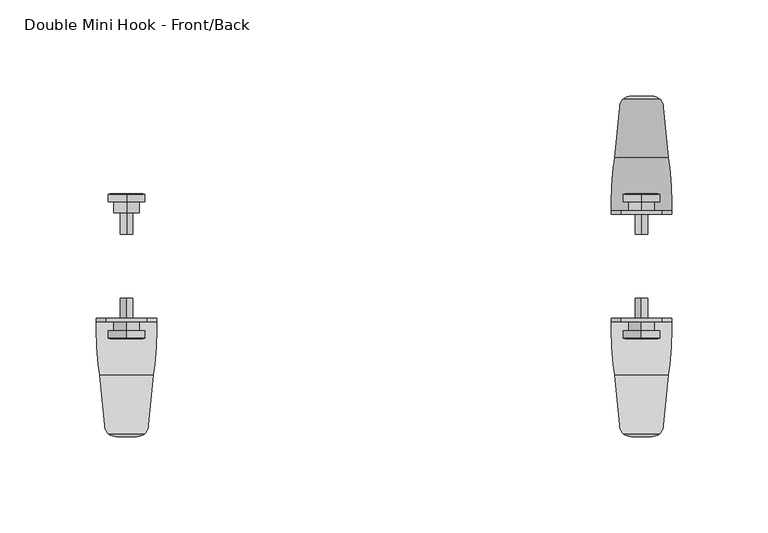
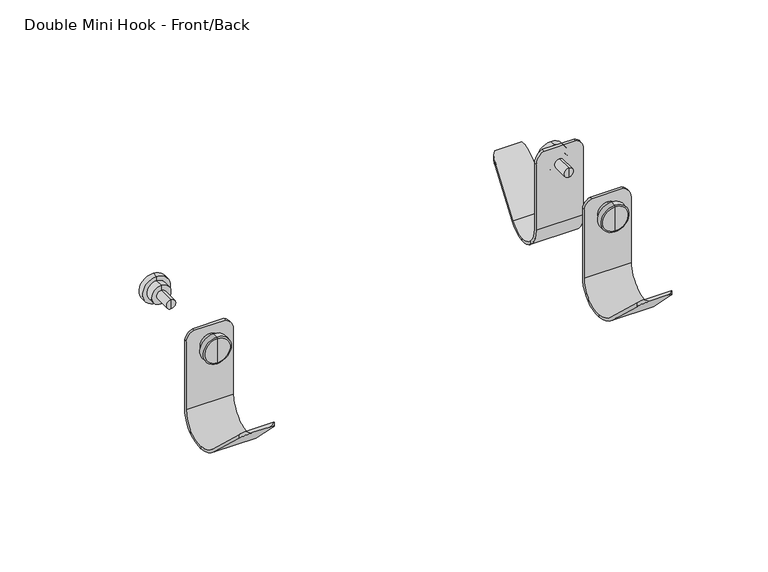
"""IFC4 building model written with IfcOpenShell, lengths in millimetres: furniture geometry, Steelcase Turnstone - Bivi - Accessories - Mini Hook : Double Mini Hook - Front/Back."""

from ifc_helpers import new_model, si_unit, frame, origin, place, context, project, spatial, polyline, circle_curve, ellipse_curve, source, transform, mapped, element, save
from ifc_brep_helpers import plane_surface, cylinder_surface, revolved_surface, advanced_brep


def double_mini_hook_front_back_0d0c3ba5(model_context):
    return source(origin(), model_context, "Body", "AdvancedBrep", [
        advanced_brep(
        [(604.2870131, -120.2757621, 1018.5729419), (604.2870131, -120.2757621, 1035.5323022), (604.2870131, -120.2757621, 1027.0526221), (604.2870131, -119.8984646, 1017.6150198), (604.2870131, -119.8984646, 1036.4902243), (604.2870131, -115.9614653, 1017.6150198), (604.2870131, -115.9614653, 1036.4902243), (604.2870131, -115.9614653, 1020.4385878), (604.2870131, -115.9614653, 1033.6666563), (604.2870131, -110.3692216, 1020.4385878), (604.2870131, -110.3692216, 1033.6666563), (604.2870131, -110.3692216, 1023.8073744), (604.2870131, -110.3692216, 1030.2978697), (604.2870131, -99.1020656, 1023.8073744), (604.2870131, -99.1020656, 1030.2978697), (604.2870131, -99.1020656, 1027.0526221)],
        [
            (0, 1, circle_curve(frame((604.2870131, -120.2757621, 1027.0526221), z_axis=(0.0, -1.0, 0.0), x_axis=(0.0, 0.0, 1.0)), 8.4796802)),
            (1, 2),
            (2, 0),
            (1, 0, circle_curve(frame((604.2870131, -120.2757621, 1027.0526221), z_axis=(0.0, -1.0, 0.0), x_axis=(0.0, 0.0, 1.0)), 8.4796802)),
            (3, 4, circle_curve(frame((604.2870131, -119.8984646, 1027.0526221), z_axis=(0.0, -1.0, 0.0), x_axis=(0.0, 0.0, 1.0)), 9.4376022)),
            (4, 1),
            (0, 3),
            (4, 3, circle_curve(frame((604.2870131, -119.8984646, 1027.0526221), z_axis=(0.0, -1.0, 0.0), x_axis=(0.0, 0.0, 1.0)), 9.4376022)),
            (5, 6, circle_curve(frame((604.2870131, -115.9614653, 1027.0526221), z_axis=(0.0, -1.0, 0.0), x_axis=(0.0, 0.0, 1.0)), 9.4376022)),
            (6, 4),
            (3, 5),
            (6, 5, circle_curve(frame((604.2870131, -115.9614653, 1027.0526221), z_axis=(0.0, -1.0, 0.0), x_axis=(0.0, 0.0, 1.0)), 9.4376022)),
            (7, 8, circle_curve(frame((604.2870131, -115.9614653, 1027.0526221), z_axis=(0.0, -1.0, 0.0), x_axis=(0.0, 0.0, 1.0)), 6.6140343)),
            (8, 6),
            (5, 7),
            (8, 7, circle_curve(frame((604.2870131, -115.9614653, 1027.0526221), z_axis=(0.0, -1.0, 0.0), x_axis=(0.0, 0.0, 1.0)), 6.6140343)),
            (9, 10, circle_curve(frame((604.2870131, -110.3692216, 1027.0526221), z_axis=(0.0, -1.0, 0.0), x_axis=(0.0, 0.0, 1.0)), 6.6140343)),
            (10, 8),
            (7, 9),
            (10, 9, circle_curve(frame((604.2870131, -110.3692216, 1027.0526221), z_axis=(0.0, -1.0, 0.0), x_axis=(0.0, 0.0, 1.0)), 6.6140343)),
            (11, 12, circle_curve(frame((604.2870131, -110.3692216, 1027.0526221), z_axis=(0.0, -1.0, 0.0), x_axis=(0.0, 0.0, 1.0)), 3.2452477)),
            (12, 10),
            (9, 11),
            (12, 11, circle_curve(frame((604.2870131, -110.3692216, 1027.0526221), z_axis=(0.0, -1.0, 0.0), x_axis=(0.0, 0.0, 1.0)), 3.2452477)),
            (13, 14, circle_curve(frame((604.2870131, -99.1020656, 1027.0526221), z_axis=(0.0, -1.0, 0.0), x_axis=(0.0, 0.0, 1.0)), 3.2452477)),
            (14, 12),
            (11, 13),
            (14, 13, circle_curve(frame((604.2870131, -99.1020656, 1027.0526221), z_axis=(0.0, -1.0, 0.0), x_axis=(0.0, 0.0, 1.0)), 3.2452477)),
            (15, 14),
            (13, 15),
        ],
        [
            plane_surface(frame((604.2870131, -120.2757621, 1027.0526221), z_axis=(0.0, -1.0, 0.0), x_axis=(0.0, 0.0, 1.0))),
            revolved_surface(polyline([(604.2870131, -120.2757621, 1035.5323022), (604.2870131, -119.8984646, 1036.4902243)]), (604.2870131, -116.6738789, 1027.0526221), (0.0, 1.0, 0.0)),
            cylinder_surface(frame((604.2870131, -116.6738789, 1027.0526221), z_axis=(0.0, 1.0, 0.0), x_axis=(0.0, 0.0, 1.0)), 9.4376022),
            plane_surface(frame((604.2870131, -115.9614653, 1027.0526221), z_axis=(0.0, 1.0, 0.0), x_axis=(0.0, 0.0, 1.0))),
            cylinder_surface(frame((604.2870131, -116.6738789, 1027.0526221), z_axis=(0.0, 1.0, 0.0), x_axis=(0.0, 0.0, 1.0)), 6.6140343),
            plane_surface(frame((604.2870131, -110.3692216, 1027.0526221), z_axis=(0.0, 1.0, 0.0), x_axis=(0.0, 0.0, 1.0))),
            cylinder_surface(frame((604.2870131, -116.6738789, 1027.0526221), z_axis=(0.0, 1.0, 0.0), x_axis=(0.0, 0.0, 1.0)), 3.2452477),
            plane_surface(frame((604.2870131, -99.1020656, 1027.0526221), z_axis=(0.0, 1.0, 0.0), x_axis=(0.0, 0.0, 1.0))),
        ],
        [
            (0, [[1, 2, 3]]),
            (0, [[4, -3, -2]]),
            (1, [[5, 6, -1, 7]]),
            (1, [[8, -7, -4, -6]]),
            (2, [[9, 10, -5, 11]]),
            (2, [[12, -11, -8, -10]]),
            (3, [[13, 14, -9, 15]]),
            (3, [[16, -15, -12, -14]]),
            (4, [[17, 18, -13, 19]]),
            (4, [[20, -19, -16, -18]]),
            (5, [[21, 22, -17, 23]]),
            (5, [[24, -23, -20, -22]]),
            (6, [[25, 26, -21, 27]]),
            (6, [[28, -27, -24, -26]]),
            (7, [[29, -25, 30]]),
            (7, [[-30, -28, -29]]),
        ],
    ),
        advanced_brep(
        [(588.412011, -111.3895045, 985.0156196), (588.412011, -111.3895045, 1031.8857507), (588.412011, -111.3895045, 1033.6357817), (588.412011, -109.4844564, 1033.6357817), (588.412011, -109.4844564, 1031.8857507), (588.412011, -109.4844564, 985.0156196), (588.412011, -115.9875666, 971.1769593), (588.412011, -115.9875666, 973.6348117), (620.1620178, -109.4844564, 985.0156196), (620.1620178, -109.4844564, 1031.8857305), (620.1620178, -111.3895045, 1031.8857305), (620.1620178, -111.3895045, 985.0156196), (620.1620178, -115.9875175, 973.6348625), (620.1620178, -115.9875175, 971.1770008), (619.5669637, -127.3418275, 966.8432061), (618.1739692, -140.5952849, 971.9889373), (590.4000571, -140.5952849, 971.9889373), (589.0070625, -127.3418275, 966.8432061), (615.5844292, -165.2331117, 995.7814101), (609.7199436, -171.0975973, 1001.444678), (598.8540827, -171.0975973, 1001.444678), (592.989597, -165.2331117, 995.7814101), (613.451349, -169.757358, 1002.7849173), (595.1226772, -169.757358, 1002.7849173), (615.5844292, -165.2331117, 998.4159034), (618.312333, -139.2788407, 973.3521552), (590.2616932, -139.2788407, 973.3521552), (592.989597, -165.2331117, 998.4159034), (589.0070625, -127.3418275, 968.6377665), (619.5669637, -127.3418275, 968.6377665), (614.8404561, -111.3895045, 1039.7467841), (593.7460056, -111.3895045, 1039.7526221), (614.8280108, -109.4844564, 1039.7526221), (593.7460056, -109.4844564, 1039.7526221)],
        [
            (0, 1),
            (1, 2),
            (2, 3),
            (3, 4),
            (4, 5),
            (5, 6, circle_curve(frame((588.412011, -127.8422681, 985.1950728), z_axis=(-1.0, 0.0, 0.0), x_axis=(0.0, -1.0, 0.0)), 18.3586888)),
            (6, 7),
            (7, 0, circle_curve(frame((588.412011, -127.7730331, 985.0156196), z_axis=(1.0, 0.0, 0.0), x_axis=(0.0, -1.0, 0.0)), 16.3835286)),
            (8, 9),
            (9, 10),
            (10, 11),
            (11, 12, circle_curve(frame((620.1620178, -127.7730331, 985.0156196), z_axis=(-1.0, 0.0, 0.0), x_axis=(0.0, -1.0, 0.0)), 16.3835286)),
            (12, 13),
            (13, 8, circle_curve(frame((620.1620178, -127.8422681, 985.1950728), z_axis=(1.0, 0.0, 0.0), x_axis=(0.0, -1.0, 0.0)), 18.3586888)),
            (5, 8),
            (13, 14, ellipse_curve(frame((619.5407367, -127.8422681, 985.1950728), z_axis=(-0.9986295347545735, 0.052335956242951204, 0.0), x_axis=(-0.05233595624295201, -0.9986295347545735, 0.0)), 18.3838833, 18.3586888)),
            (14, 15, ellipse_curve(frame((619.5143652, -127.8422681, 985.1950728), z_axis=(-0.9945218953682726, 0.10452846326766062, 0.0), x_axis=(-0.1045284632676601, -0.9945218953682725, 0.0)), 18.4598136, 18.3586888)),
            (15, 16),
            (16, 17, ellipse_curve(frame((589.059661, -127.8422681, 985.1950728), z_axis=(0.9945218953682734, 0.10452846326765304, 0.0), x_axis=(-0.10452846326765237, 0.9945218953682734, 0.0)), 18.4598136, 18.3586888)),
            (17, 6, ellipse_curve(frame((589.0332895, -127.8422681, 985.1950728), z_axis=(0.998629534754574, 0.05233595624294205, 0.0), x_axis=(-0.052335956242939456, 0.998629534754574, 0.0)), 18.3838833, 18.3586888)),
            (15, 18),
            (18, 19, ellipse_curve(frame((609.7199436, -165.2331117, 995.7814101), z_axis=(0.0, -0.6946583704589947, -0.7193398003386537), x_axis=(0.0, 0.7193398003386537, -0.6946583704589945)), 8.1525944, 5.8644857)),
            (19, 20),
            (20, 21, ellipse_curve(frame((598.8540827, -165.2331117, 995.7814101), z_axis=(0.0, -0.6946583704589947, -0.7193398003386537), x_axis=(0.0, 0.7193398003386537, -0.6946583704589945)), 8.1525944, 5.8644857)),
            (21, 16),
            (19, 22, ellipse_curve(frame((609.7199436, -165.2331117, 1007.3091637), z_axis=(0.0, -0.7071067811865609, 0.7071067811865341), x_axis=(0.0, -0.7071067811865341, -0.7071067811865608)), 8.2936352, 5.8644857)),
            (22, 23),
            (23, 20, ellipse_curve(frame((598.8540827, -165.2331117, 1007.3091637), z_axis=(0.0, -0.7071067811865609, 0.7071067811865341), x_axis=(0.0, -0.7071067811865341, -0.7071067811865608)), 8.2936352, 5.8644857)),
            (22, 24, ellipse_curve(frame((609.7199436, -165.2331117, 998.4159034), z_axis=(0.0, 0.6946583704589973, 0.7193398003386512), x_axis=(0.0, 0.7193398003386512, -0.6946583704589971)), 8.1525944, 5.8644857)),
            (24, 25),
            (25, 26),
            (26, 27),
            (27, 23, ellipse_curve(frame((598.8540827, -165.2331117, 998.4159034), z_axis=(0.0, 0.6946583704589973, 0.7193398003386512), x_axis=(0.0, 0.7193398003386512, -0.6946583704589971)), 8.1525944, 5.8644857)),
            (11, 0),
            (7, 28, ellipse_curve(frame((589.0296611, -127.7730331, 985.0156196), z_axis=(-0.998629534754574, -0.05233595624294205, 0.0), x_axis=(0.052335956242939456, -0.998629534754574, 0.0)), 16.4060125, 16.3835286)),
            (28, 26, ellipse_curve(frame((589.0523841, -127.7730331, 985.0156196), z_axis=(-0.9945218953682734, -0.10452846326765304, 0.0), x_axis=(0.10452846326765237, -0.9945218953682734, 0.0)), 16.4737737, 16.3835286)),
            (25, 29, ellipse_curve(frame((619.5216421, -127.7730331, 985.0156196), z_axis=(0.9945218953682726, -0.10452846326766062, 0.0), x_axis=(0.1045284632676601, 0.9945218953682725, 0.0)), 16.4737737, 16.3835286)),
            (29, 12, ellipse_curve(frame((619.5443651, -127.7730331, 985.0156196), z_axis=(0.9986295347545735, -0.052335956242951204, 0.0), x_axis=(0.05233595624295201, 0.9986295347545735, 0.0)), 16.4060125, 16.3835286)),
            (10, 30, circle_curve(frame((610.8894917, -111.3895045, 1031.3404182), z_axis=(0.0, -1.0, 0.0), x_axis=(-1.0, 0.0, 0.0)), 9.288547)),
            (30, 31),
            (31, 2, circle_curve(frame((595.5897362, -111.3895045, 1032.7607662), z_axis=(0.0, -1.0, 0.0), x_axis=(-1.0, 0.0, 0.0)), 7.2308638)),
            (30, 32),
            (32, 33),
            (33, 31),
            (3, 33, circle_curve(frame((595.5897362, -109.4844564, 1032.7607662), z_axis=(0.0, 1.0, 0.0), x_axis=(-1.0, 0.0, 0.0)), 7.2308638)),
            (32, 9, circle_curve(frame((610.8894917, -109.4844564, 1031.3404182), z_axis=(0.0, 1.0, 0.0), x_axis=(-1.0, 0.0, 0.0)), 9.288547)),
            (14, 29),
            (24, 18),
            (17, 28),
            (27, 21),
        ],
        [
            plane_surface(frame((588.412011, -146.2009569, 985.1950728), z_axis=(-1.0, 0.0, 0.0), x_axis=(0.0, 0.0, 1.0))),
            plane_surface(frame((620.1620178, -146.2009569, 985.1950728), z_axis=(1.0, 0.0, 0.0), x_axis=(0.0, 0.0, -1.0))),
            cylinder_surface(frame((620.1620178, -127.8422681, 985.1950728), z_axis=(-1.0, 0.0, 0.0), x_axis=(0.0, -1.0, 0.0)), 18.3586888),
            plane_surface(frame((588.412011, -140.5952849, 971.9889373), z_axis=(0.0, -0.6946583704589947, -0.7193398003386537), x_axis=(1.0, 0.0, 0.0))),
            plane_surface(frame((588.412011, -171.0975973, 1001.444678), z_axis=(0.0, -0.7071067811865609, 0.7071067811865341), x_axis=(1.0, 0.0, 0.0))),
            plane_surface(frame((588.412011, -169.757358, 1002.7849173), z_axis=(0.0, 0.6946583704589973, 0.7193398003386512), x_axis=(1.0, 0.0, 0.0))),
            revolved_surface(polyline([(621.2436203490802, -144.1565617, 985.0156196), (587.33040585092, -144.1565617, 985.0156196)]), (620.1620178, -127.7730331, 985.0156196), (1.0, 0.0, 0.0)),
            plane_surface(frame((588.412011, -111.3895045, 985.0156196), z_axis=(0.0, -1.0, 0.0), x_axis=(1.0, 0.0, 0.0))),
            plane_surface(frame((588.412011, -111.3895045, 1039.7526221), z_axis=(0.0, 0.0, 1.0), x_axis=(1.0, 0.0, 0.0))),
            plane_surface(frame((588.412011, -109.4844564, 1039.7526221), z_axis=(0.0, 1.0, 0.0), x_axis=(1.0, 0.0, 0.0))),
            cylinder_surface(frame((610.8894917, -76.958841, 1031.3404182), z_axis=(0.0, 1.0, 0.0), x_axis=(-1.0, 0.0, 0.0)), 9.288547),
            cylinder_surface(frame((595.5897362, -131.6332564, 1032.7607662), z_axis=(0.0, 1.0, 0.0), x_axis=(-1.0, 0.0, 0.0)), 7.2308638),
            plane_surface(frame((619.5669637, -127.3418275, 1017.6150198), z_axis=(0.9945218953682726, -0.10452846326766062, 0.0), x_axis=(0.0, 0.0, -1.0))),
            cylinder_surface(frame((609.7199436, -165.2331117, 316.2188303), z_axis=(0.0, 0.0, -1.0), x_axis=(0.0, -1.0, 0.0)), 5.8644857),
            plane_surface(frame((620.1620178, -115.9875175, 1017.6150198), z_axis=(0.9986295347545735, -0.052335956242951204, 0.0), x_axis=(0.0, 0.0, -1.0))),
            plane_surface(frame((589.0070625, -127.3418275, 1017.6150198), z_axis=(-0.998629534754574, -0.05233595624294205, 0.0), x_axis=(0.0, 0.0, -1.0))),
            cylinder_surface(frame((598.8540827, -165.2331117, 316.2188303), z_axis=(0.0, 0.0, -1.0), x_axis=(0.0, -1.0, 0.0)), 5.8644857),
            plane_surface(frame((592.989597, -165.2331117, 1017.6150198), z_axis=(-0.9945218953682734, -0.10452846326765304, 0.0), x_axis=(0.0, 0.0, -1.0))),
        ],
        [
            (0, [[1, 2, 3, 4, 5, 6, 7, 8]]),
            (1, [[9, 10, 11, 12, 13, 14]]),
            (2, [[15, -14, 16, 17, 18, 19, 20, -6]]),
            (3, [[-18, 21, 22, 23, 24, 25]]),
            (4, [[-23, 26, 27, 28]]),
            (5, [[-27, 29, 30, 31, 32, 33]]),
            (6, [[34, -8, 35, 36, -31, 37, 38, -12]]),
            (7, [[-34, -11, 39, 40, 41, -2, -1]]),
            (8, [[-40, 42, 43, 44]]),
            (9, [[-15, -5, -4, 45, -43, 46, -9]]),
            (10, [[-10, -46, -42, -39]]),
            (11, [[-3, -41, -44, -45]]),
            (12, [[47, -37, -30, 48, -21, -17]]),
            (13, [[-48, -29, -26, -22]]),
            (14, [[-47, -16, -13, -38]]),
            (15, [[49, -35, -7, -20]]),
            (16, [[50, -24, -28, -33]]),
            (17, [[-49, -19, -25, -50, -32, -36]]),
        ],
    ),
        advanced_brep(
        [(872.4689869, -120.2757621, 1018.5729419), (872.4689869, -120.2757621, 1035.5323022), (872.4689869, -120.2757621, 1027.0526221), (872.4689869, -119.8984646, 1017.6150198), (872.4689869, -119.8984646, 1036.4902243), (872.4689869, -115.9614653, 1017.6150198), (872.4689869, -115.9614653, 1036.4902243), (872.4689869, -115.9614653, 1020.4385878), (872.4689869, -115.9614653, 1033.6666563), (872.4689869, -110.3692216, 1020.4385878), (872.4689869, -110.3692216, 1033.6666563), (872.4689869, -110.3692216, 1023.8073744), (872.4689869, -110.3692216, 1030.2978697), (872.4689869, -99.1020656, 1023.8073744), (872.4689869, -99.1020656, 1030.2978697), (872.4689869, -99.1020656, 1027.0526221)],
        [
            (0, 1, circle_curve(frame((872.4689869, -120.2757621, 1027.0526221), z_axis=(0.0, -1.0, 0.0), x_axis=(0.0, 0.0, 1.0)), 8.4796802)),
            (1, 2),
            (2, 0),
            (1, 0, circle_curve(frame((872.4689869, -120.2757621, 1027.0526221), z_axis=(0.0, -1.0, 0.0), x_axis=(0.0, 0.0, 1.0)), 8.4796802)),
            (3, 4, circle_curve(frame((872.4689869, -119.8984646, 1027.0526221), z_axis=(0.0, -1.0, 0.0), x_axis=(0.0, 0.0, 1.0)), 9.4376022)),
            (4, 1),
            (0, 3),
            (4, 3, circle_curve(frame((872.4689869, -119.8984646, 1027.0526221), z_axis=(0.0, -1.0, 0.0), x_axis=(0.0, 0.0, 1.0)), 9.4376022)),
            (5, 6, circle_curve(frame((872.4689869, -115.9614653, 1027.0526221), z_axis=(0.0, -1.0, 0.0), x_axis=(0.0, 0.0, 1.0)), 9.4376022)),
            (6, 4),
            (3, 5),
            (6, 5, circle_curve(frame((872.4689869, -115.9614653, 1027.0526221), z_axis=(0.0, -1.0, 0.0), x_axis=(0.0, 0.0, 1.0)), 9.4376022)),
            (7, 8, circle_curve(frame((872.4689869, -115.9614653, 1027.0526221), z_axis=(0.0, -1.0, 0.0), x_axis=(0.0, 0.0, 1.0)), 6.6140343)),
            (8, 6),
            (5, 7),
            (8, 7, circle_curve(frame((872.4689869, -115.9614653, 1027.0526221), z_axis=(0.0, -1.0, 0.0), x_axis=(0.0, 0.0, 1.0)), 6.6140343)),
            (9, 10, circle_curve(frame((872.4689869, -110.3692216, 1027.0526221), z_axis=(0.0, -1.0, 0.0), x_axis=(0.0, 0.0, 1.0)), 6.6140343)),
            (10, 8),
            (7, 9),
            (10, 9, circle_curve(frame((872.4689869, -110.3692216, 1027.0526221), z_axis=(0.0, -1.0, 0.0), x_axis=(0.0, 0.0, 1.0)), 6.6140343)),
            (11, 12, circle_curve(frame((872.4689869, -110.3692216, 1027.0526221), z_axis=(0.0, -1.0, 0.0), x_axis=(0.0, 0.0, 1.0)), 3.2452477)),
            (12, 10),
            (9, 11),
            (12, 11, circle_curve(frame((872.4689869, -110.3692216, 1027.0526221), z_axis=(0.0, -1.0, 0.0), x_axis=(0.0, 0.0, 1.0)), 3.2452477)),
            (13, 14, circle_curve(frame((872.4689869, -99.1020656, 1027.0526221), z_axis=(0.0, -1.0, 0.0), x_axis=(0.0, 0.0, 1.0)), 3.2452477)),
            (14, 12),
            (11, 13),
            (14, 13, circle_curve(frame((872.4689869, -99.1020656, 1027.0526221), z_axis=(0.0, -1.0, 0.0), x_axis=(0.0, 0.0, 1.0)), 3.2452477)),
            (15, 14),
            (13, 15),
        ],
        [
            plane_surface(frame((872.4689869, -120.2757621, 1027.0526221), z_axis=(0.0, -1.0, 0.0), x_axis=(0.0, 0.0, 1.0))),
            revolved_surface(polyline([(872.4689869, -120.2757621, 1035.5323022), (872.4689869, -119.8984646, 1036.4902243)]), (872.4689869, -116.6738789, 1027.0526221), (0.0, 1.0000000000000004, 0.0)),
            cylinder_surface(frame((872.4689869, -116.6738789, 1027.0526221), z_axis=(0.0, 1.0000000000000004, 0.0), x_axis=(0.0, 0.0, 1.0)), 9.4376022),
            plane_surface(frame((872.4689869, -115.9614653, 1027.0526221), z_axis=(0.0, 1.0, 0.0), x_axis=(0.0, 0.0, 1.0))),
            cylinder_surface(frame((872.4689869, -116.6738789, 1027.0526221), z_axis=(0.0, 1.0000000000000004, 0.0), x_axis=(0.0, 0.0, 1.0)), 6.6140343),
            plane_surface(frame((872.4689869, -110.3692216, 1027.0526221), z_axis=(0.0, 1.0, 0.0), x_axis=(0.0, 0.0, 1.0))),
            cylinder_surface(frame((872.4689869, -116.6738789, 1027.0526221), z_axis=(0.0, 1.0000000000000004, 0.0), x_axis=(0.0, 0.0, 1.0)), 3.2452477),
            plane_surface(frame((872.4689869, -99.1020656, 1027.0526221), z_axis=(0.0, 1.0, 0.0), x_axis=(0.0, 0.0, 1.0))),
        ],
        [
            (0, [[1, 2, 3]]),
            (0, [[4, -3, -2]]),
            (1, [[5, 6, -1, 7]]),
            (1, [[8, -7, -4, -6]]),
            (2, [[9, 10, -5, 11]]),
            (2, [[12, -11, -8, -10]]),
            (3, [[13, 14, -9, 15]]),
            (3, [[16, -15, -12, -14]]),
            (4, [[17, 18, -13, 19]]),
            (4, [[20, -19, -16, -18]]),
            (5, [[21, 22, -17, 23]]),
            (5, [[24, -23, -20, -22]]),
            (6, [[25, 26, -21, 27]]),
            (6, [[28, -27, -24, -26]]),
            (7, [[29, -25, 30]]),
            (7, [[-30, -28, -29]]),
        ],
    ),
        advanced_brep(
        [(856.5939847, -111.3895045, 985.0156196), (856.5939847, -111.3895045, 1031.8857507), (856.5939847, -111.3895045, 1033.6357817), (856.5939847, -109.4844564, 1033.6357817), (856.5939847, -109.4844564, 1031.8857507), (856.5939847, -109.4844564, 985.0156196), (856.5939847, -115.9875666, 971.1769593), (856.5939847, -115.9875666, 973.6348117), (888.3439916, -109.4844564, 985.0156196), (888.3439916, -109.4844564, 1031.8857305), (888.3439916, -111.3895045, 1031.8857305), (888.3439916, -111.3895045, 985.0156196), (888.3439916, -115.9875175, 973.6348625), (888.3439916, -115.9875175, 971.1770008), (887.7489375, -127.3418275, 966.8432061), (886.3559429, -140.5952849, 971.9889373), (858.5820308, -140.5952849, 971.9889373), (857.1890363, -127.3418275, 966.8432061), (883.766403, -165.2331117, 995.7814101), (877.9019173, -171.0975973, 1001.444678), (867.0360564, -171.0975973, 1001.444678), (861.1715708, -165.2331117, 995.7814101), (881.6333228, -169.757358, 1002.7849173), (863.304651, -169.757358, 1002.7849173), (883.766403, -165.2331117, 998.4159034), (886.4943068, -139.2788407, 973.3521552), (858.443667, -139.2788407, 973.3521552), (861.1715708, -165.2331117, 998.4159034), (857.1890363, -127.3418275, 968.6377665), (887.7489375, -127.3418275, 968.6377665), (883.0224298, -111.3895045, 1039.7467841), (861.9279793, -111.3895045, 1039.7526221), (883.0099846, -109.4844564, 1039.7526221), (861.9279793, -109.4844564, 1039.7526221)],
        [
            (0, 1),
            (1, 2),
            (2, 3),
            (3, 4),
            (4, 5),
            (5, 6, circle_curve(frame((856.5939847, -127.8422681, 985.1950728), z_axis=(-1.0, 0.0, 0.0), x_axis=(0.0, -1.0000000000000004, 0.0)), 18.3586888)),
            (6, 7),
            (7, 0, circle_curve(frame((856.5939847, -127.7730331, 985.0156196), z_axis=(1.0, 0.0, 0.0), x_axis=(0.0, -1.0000000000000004, 0.0)), 16.3835286)),
            (8, 9),
            (9, 10),
            (10, 11),
            (11, 12, circle_curve(frame((888.3439916, -127.7730331, 985.0156196), z_axis=(-1.0, 0.0, 0.0), x_axis=(0.0, -1.0000000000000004, 0.0)), 16.3835286)),
            (12, 13),
            (13, 8, circle_curve(frame((888.3439916, -127.8422681, 985.1950728), z_axis=(1.0, 0.0, 0.0), x_axis=(0.0, -1.0000000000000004, 0.0)), 18.3586888)),
            (5, 8),
            (13, 14, ellipse_curve(frame((887.7227105, -127.8422681, 985.1950728), z_axis=(-0.9986295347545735, 0.052335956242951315, 0.0), x_axis=(-0.05233595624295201, -0.9986295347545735, 0.0)), 18.3838833, 18.3586888)),
            (14, 15, ellipse_curve(frame((887.696339, -127.8422681, 985.1950728), z_axis=(-0.9945218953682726, 0.10452846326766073, 0.0), x_axis=(-0.1045284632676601, -0.9945218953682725, 0.0)), 18.4598136, 18.3586888)),
            (15, 16),
            (16, 17, ellipse_curve(frame((857.2416348, -127.8422681, 985.1950728), z_axis=(0.9945218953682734, 0.10452846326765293, 0.0), x_axis=(-0.10452846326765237, 0.9945218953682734, 0.0)), 18.4598136, 18.3586888)),
            (17, 6, ellipse_curve(frame((857.2152633, -127.8422681, 985.1950728), z_axis=(0.998629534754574, 0.05233595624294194, 0.0), x_axis=(-0.052335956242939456, 0.998629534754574, 0.0)), 18.3838833, 18.3586888)),
            (15, 18),
            (18, 19, ellipse_curve(frame((877.9019173, -165.2331117, 995.7814101), z_axis=(0.0, -0.6946583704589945, -0.7193398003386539), x_axis=(0.0, 0.7193398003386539, -0.6946583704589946)), 8.1525944, 5.8644857)),
            (19, 20),
            (20, 21, ellipse_curve(frame((867.0360564, -165.2331117, 995.7814101), z_axis=(0.0, -0.6946583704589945, -0.7193398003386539), x_axis=(0.0, 0.7193398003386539, -0.6946583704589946)), 8.1525944, 5.8644857)),
            (21, 16),
            (19, 22, ellipse_curve(frame((877.9019173, -165.2331117, 1007.3091637), z_axis=(0.0, -0.7071067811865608, 0.7071067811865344), x_axis=(0.0, -0.7071067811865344, -0.7071067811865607)), 8.2936352, 5.8644857)),
            (22, 23),
            (23, 20, ellipse_curve(frame((867.0360564, -165.2331117, 1007.3091637), z_axis=(0.0, -0.7071067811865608, 0.7071067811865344), x_axis=(0.0, -0.7071067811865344, -0.7071067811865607)), 8.2936352, 5.8644857)),
            (22, 24, ellipse_curve(frame((877.9019173, -165.2331117, 998.4159034), z_axis=(0.0, 0.6946583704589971, 0.7193398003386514), x_axis=(0.0, 0.7193398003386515, -0.6946583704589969)), 8.1525944, 5.8644857)),
            (24, 25),
            (25, 26),
            (26, 27),
            (27, 23, ellipse_curve(frame((867.0360564, -165.2331117, 998.4159034), z_axis=(0.0, 0.6946583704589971, 0.7193398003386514), x_axis=(0.0, 0.7193398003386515, -0.6946583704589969)), 8.1525944, 5.8644857)),
            (11, 0),
            (7, 28, ellipse_curve(frame((857.2116349, -127.7730331, 985.0156196), z_axis=(-0.998629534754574, -0.05233595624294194, 0.0), x_axis=(0.052335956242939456, -0.998629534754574, 0.0)), 16.4060125, 16.3835286)),
            (28, 26, ellipse_curve(frame((857.2343579, -127.7730331, 985.0156196), z_axis=(-0.9945218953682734, -0.10452846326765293, 0.0), x_axis=(0.10452846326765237, -0.9945218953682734, 0.0)), 16.4737737, 16.3835286)),
            (25, 29, ellipse_curve(frame((887.7036159, -127.7730331, 985.0156196), z_axis=(0.9945218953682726, -0.10452846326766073, 0.0), x_axis=(0.1045284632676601, 0.9945218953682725, 0.0)), 16.4737737, 16.3835286)),
            (29, 12, ellipse_curve(frame((887.7263389, -127.7730331, 985.0156196), z_axis=(0.9986295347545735, -0.052335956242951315, 0.0), x_axis=(0.05233595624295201, 0.9986295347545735, 0.0)), 16.4060125, 16.3835286)),
            (10, 30, circle_curve(frame((879.0714655, -111.3895045, 1031.3404182), z_axis=(0.0, -1.0, 0.0), x_axis=(-1.0000000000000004, 0.0, 0.0)), 9.288547)),
            (30, 31),
            (31, 2, circle_curve(frame((863.77171, -111.3895045, 1032.7607662), z_axis=(0.0, -1.0, 0.0), x_axis=(-1.0000000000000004, 0.0, 0.0)), 7.2308638)),
            (30, 32),
            (32, 33),
            (33, 31),
            (3, 33, circle_curve(frame((863.77171, -109.4844564, 1032.7607662), z_axis=(0.0, 1.0, 0.0), x_axis=(-1.0000000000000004, 0.0, 0.0)), 7.2308638)),
            (32, 9, circle_curve(frame((879.0714655, -109.4844564, 1031.3404182), z_axis=(0.0, 1.0, 0.0), x_axis=(-1.0000000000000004, 0.0, 0.0)), 9.288547)),
            (14, 29),
            (24, 18),
            (17, 28),
            (27, 21),
        ],
        [
            plane_surface(frame((856.5939847, -146.2009569, 985.1950728), z_axis=(-1.0, 0.0, 0.0), x_axis=(0.0, 0.0, 1.0))),
            plane_surface(frame((888.3439916, -146.2009569, 985.1950728), z_axis=(1.0, 0.0, 0.0), x_axis=(0.0, 0.0, -1.0))),
            cylinder_surface(frame((888.3439916, -127.8422681, 985.1950728), z_axis=(-1.0000000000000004, 0.0, 0.0), x_axis=(0.0, -1.0000000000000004, 0.0)), 18.3586888),
            plane_surface(frame((856.5939847, -140.5952849, 971.9889373), z_axis=(0.0, -0.6946583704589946, -0.719339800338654), x_axis=(1.0, 0.0, 0.0))),
            plane_surface(frame((856.5939847, -171.0975973, 1001.444678), z_axis=(0.0, -0.7071067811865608, 0.7071067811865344), x_axis=(1.0, 0.0, 0.0))),
            plane_surface(frame((856.5939847, -169.757358, 1002.7849173), z_axis=(0.0, 0.6946583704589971, 0.7193398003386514), x_axis=(1.0, 0.0, 0.0))),
            revolved_surface(polyline([(889.4255941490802, -144.15656170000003, 985.0156196), (855.5123796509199, -144.15656170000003, 985.0156196)]), (888.3439916, -127.7730331, 985.0156196), (1.0000000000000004, 0.0, 0.0)),
            plane_surface(frame((856.5939847, -111.3895045, 985.0156196), z_axis=(0.0, -1.0, 0.0), x_axis=(1.0, 0.0, 0.0))),
            plane_surface(frame((856.5939847, -111.3895045, 1039.7526221), z_axis=(0.0, 0.0, 1.0), x_axis=(1.0, 0.0, 0.0))),
            plane_surface(frame((856.5939847, -109.4844564, 1039.7526221), z_axis=(0.0, 1.0, 0.0), x_axis=(1.0, 0.0, 0.0))),
            cylinder_surface(frame((879.0714655, -76.958841, 1031.3404182), z_axis=(0.0, 1.0000000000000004, 0.0), x_axis=(-1.0000000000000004, 0.0, 0.0)), 9.288547),
            cylinder_surface(frame((863.77171, -131.6332564, 1032.7607662), z_axis=(0.0, 1.0000000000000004, 0.0), x_axis=(-1.0000000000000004, 0.0, 0.0)), 7.2308638),
            plane_surface(frame((887.7489375, -127.3418275, 1017.6150198), z_axis=(0.9945218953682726, -0.10452846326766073, 0.0), x_axis=(0.0, 0.0, -1.0))),
            cylinder_surface(frame((877.9019173, -165.2331117, 316.2188303), z_axis=(0.0, 0.0, -1.0), x_axis=(0.0, -1.0000000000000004, 0.0)), 5.8644857),
            plane_surface(frame((888.3439916, -115.9875175, 1017.6150198), z_axis=(0.9986295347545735, -0.052335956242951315, 0.0), x_axis=(0.0, 0.0, -1.0))),
            plane_surface(frame((857.1890363, -127.3418275, 1017.6150198), z_axis=(-0.998629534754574, -0.05233595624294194, 0.0), x_axis=(0.0, 0.0, -1.0))),
            cylinder_surface(frame((867.0360564, -165.2331117, 316.2188303), z_axis=(0.0, 0.0, -1.0), x_axis=(0.0, -1.0000000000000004, 0.0)), 5.8644857),
            plane_surface(frame((861.1715708, -165.2331117, 1017.6150198), z_axis=(-0.9945218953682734, -0.10452846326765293, 0.0), x_axis=(0.0, 0.0, -1.0))),
        ],
        [
            (0, [[1, 2, 3, 4, 5, 6, 7, 8]]),
            (1, [[9, 10, 11, 12, 13, 14]]),
            (2, [[15, -14, 16, 17, 18, 19, 20, -6]]),
            (3, [[-18, 21, 22, 23, 24, 25]]),
            (4, [[-23, 26, 27, 28]]),
            (5, [[-27, 29, 30, 31, 32, 33]]),
            (6, [[34, -8, 35, 36, -31, 37, 38, -12]]),
            (7, [[-34, -11, 39, 40, 41, -2, -1]]),
            (8, [[-40, 42, 43, 44]]),
            (9, [[-15, -5, -4, 45, -43, 46, -9]]),
            (10, [[-10, -46, -42, -39]]),
            (11, [[-3, -41, -44, -45]]),
            (12, [[47, -37, -30, 48, -21, -17]]),
            (13, [[-48, -29, -26, -22]]),
            (14, [[-47, -16, -13, -38]]),
            (15, [[49, -35, -7, -20]]),
            (16, [[50, -24, -28, -33]]),
            (17, [[-49, -19, -25, -50, -32, -36]]),
        ],
    ),
        advanced_brep(
        [(872.4689869, -44.5801745, 1018.5729419), (872.4689869, -44.5801745, 1035.5323022), (872.4689869, -44.5801745, 1027.0526221), (872.4689869, -44.9574721, 1017.6150198), (872.4689869, -44.9574721, 1036.4902243), (872.4689869, -48.8944713, 1017.6150198), (872.4689869, -48.8944713, 1036.4902243), (872.4689869, -48.8944713, 1020.4385878), (872.4689869, -48.8944713, 1033.6666563), (872.4689869, -54.486715, 1020.4385878), (872.4689869, -54.486715, 1033.6666563), (872.4689869, -54.486715, 1023.8073744), (872.4689869, -54.486715, 1030.2978697), (872.4689869, -65.753871, 1023.8073744), (872.4689869, -65.753871, 1030.2978697), (872.4689869, -65.753871, 1027.0526221)],
        [
            (0, 1, circle_curve(frame((872.4689869, -44.5801745, 1027.0526221), z_axis=(0.0, 1.0, 0.0), x_axis=(0.0, 0.0, 1.0)), 8.4796802)),
            (1, 2),
            (2, 0),
            (1, 0, circle_curve(frame((872.4689869, -44.5801745, 1027.0526221), z_axis=(0.0, 1.0, 0.0), x_axis=(0.0, 0.0, 1.0)), 8.4796802)),
            (3, 4, circle_curve(frame((872.4689869, -44.9574721, 1027.0526221), z_axis=(0.0, 1.0, 0.0), x_axis=(0.0, 0.0, 1.0)), 9.4376022)),
            (4, 1),
            (0, 3),
            (4, 3, circle_curve(frame((872.4689869, -44.9574721, 1027.0526221), z_axis=(0.0, 1.0, 0.0), x_axis=(0.0, 0.0, 1.0)), 9.4376022)),
            (5, 6, circle_curve(frame((872.4689869, -48.8944713, 1027.0526221), z_axis=(0.0, 1.0, 0.0), x_axis=(0.0, 0.0, 1.0)), 9.4376022)),
            (6, 4),
            (3, 5),
            (6, 5, circle_curve(frame((872.4689869, -48.8944713, 1027.0526221), z_axis=(0.0, 1.0, 0.0), x_axis=(0.0, 0.0, 1.0)), 9.4376022)),
            (7, 8, circle_curve(frame((872.4689869, -48.8944713, 1027.0526221), z_axis=(0.0, 1.0, 0.0), x_axis=(0.0, 0.0, 1.0)), 6.6140343)),
            (8, 6),
            (5, 7),
            (8, 7, circle_curve(frame((872.4689869, -48.8944713, 1027.0526221), z_axis=(0.0, 1.0, 0.0), x_axis=(0.0, 0.0, 1.0)), 6.6140343)),
            (9, 10, circle_curve(frame((872.4689869, -54.486715, 1027.0526221), z_axis=(0.0, 1.0, 0.0), x_axis=(0.0, 0.0, 1.0)), 6.6140343)),
            (10, 8),
            (7, 9),
            (10, 9, circle_curve(frame((872.4689869, -54.486715, 1027.0526221), z_axis=(0.0, 1.0, 0.0), x_axis=(0.0, 0.0, 1.0)), 6.6140343)),
            (11, 12, circle_curve(frame((872.4689869, -54.486715, 1027.0526221), z_axis=(0.0, 1.0, 0.0), x_axis=(0.0, 0.0, 1.0)), 3.2452477)),
            (12, 10),
            (9, 11),
            (12, 11, circle_curve(frame((872.4689869, -54.486715, 1027.0526221), z_axis=(0.0, 1.0, 0.0), x_axis=(0.0, 0.0, 1.0)), 3.2452477)),
            (13, 14, circle_curve(frame((872.4689869, -65.753871, 1027.0526221), z_axis=(0.0, 1.0, 0.0), x_axis=(0.0, 0.0, 1.0)), 3.2452477)),
            (14, 12),
            (11, 13),
            (14, 13, circle_curve(frame((872.4689869, -65.753871, 1027.0526221), z_axis=(0.0, 1.0, 0.0), x_axis=(0.0, 0.0, 1.0)), 3.2452477)),
            (15, 14),
            (13, 15),
        ],
        [
            plane_surface(frame((872.4689869, -44.5801745, 1027.0526221), z_axis=(0.0, 1.0, 0.0), x_axis=(0.0, 0.0, 1.0))),
            revolved_surface(polyline([(872.4689869, -44.5801745, 1035.5323022), (872.4689869, -44.9574721, 1036.4902243)]), (872.4689869, -48.1820578, 1027.0526221), (0.0, -1.0000000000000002, 0.0)),
            cylinder_surface(frame((872.4689869, -48.1820578, 1027.0526221), z_axis=(0.0, -1.0000000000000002, 0.0), x_axis=(0.0, 0.0, 1.0)), 9.4376022),
            plane_surface(frame((872.4689869, -48.8944713, 1027.0526221), z_axis=(0.0, -1.0, 0.0), x_axis=(0.0, 0.0, 1.0))),
            cylinder_surface(frame((872.4689869, -48.1820578, 1027.0526221), z_axis=(0.0, -1.0000000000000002, 0.0), x_axis=(0.0, 0.0, 1.0)), 6.6140343),
            plane_surface(frame((872.4689869, -54.486715, 1027.0526221), z_axis=(0.0, -1.0, 0.0), x_axis=(0.0, 0.0, 1.0))),
            cylinder_surface(frame((872.4689869, -48.1820578, 1027.0526221), z_axis=(0.0, -1.0000000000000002, 0.0), x_axis=(0.0, 0.0, 1.0)), 3.2452477),
            plane_surface(frame((872.4689869, -65.753871, 1027.0526221), z_axis=(0.0, -1.0, 0.0), x_axis=(0.0, 0.0, 1.0))),
        ],
        [
            (0, [[1, 2, 3]]),
            (0, [[4, -3, -2]]),
            (1, [[5, 6, -1, 7]]),
            (1, [[8, -7, -4, -6]]),
            (2, [[9, 10, -5, 11]]),
            (2, [[12, -11, -8, -10]]),
            (3, [[13, 14, -9, 15]]),
            (3, [[16, -15, -12, -14]]),
            (4, [[17, 18, -13, 19]]),
            (4, [[20, -19, -16, -18]]),
            (5, [[21, 22, -17, 23]]),
            (5, [[24, -23, -20, -22]]),
            (6, [[25, 26, -21, 27]]),
            (6, [[28, -27, -24, -26]]),
            (7, [[29, -25, 30]]),
            (7, [[-30, -28, -29]]),
        ],
    ),
        advanced_brep(
        [(888.343989, -53.4664322, 985.0156196), (888.343989, -53.4664322, 1031.8857507), (888.343989, -53.4664322, 1033.6357817), (888.343989, -55.3714803, 1033.6357817), (888.343989, -55.3714803, 1031.8857507), (888.343989, -55.3714803, 985.0156196), (888.343989, -48.8683701, 971.1769593), (888.343989, -48.8683701, 973.6348117), (856.5939822, -55.3714803, 985.0156196), (856.5939822, -55.3714803, 1031.8857305), (856.5939822, -53.4664322, 1031.8857305), (856.5939822, -53.4664322, 985.0156196), (856.5939822, -48.8684191, 973.6348625), (856.5939822, -48.8684191, 971.1770008), (857.1890363, -37.5141092, 966.8432061), (858.5820308, -24.2606518, 971.9889373), (886.3559429, -24.2606518, 971.9889373), (887.7489375, -37.5141092, 966.8432061), (861.1715708, 0.377175, 995.7814101), (867.0360564, 6.2416607, 1001.444678), (877.9019173, 6.2416607, 1001.444678), (883.766403, 0.377175, 995.7814101), (863.304651, 4.9014214, 1002.7849173), (881.6333228, 4.9014214, 1002.7849173), (861.1715708, 0.377175, 998.4159034), (858.443667, -25.577096, 973.3521552), (886.4943068, -25.577096, 973.3521552), (883.766403, 0.377175, 998.4159034), (887.7489375, -37.5141092, 968.6377665), (857.1890363, -37.5141092, 968.6377665), (861.9155439, -53.4664322, 1039.7467841), (883.0099944, -53.4664322, 1039.7526221), (861.9279892, -55.3714803, 1039.7526221), (883.0099944, -55.3714803, 1039.7526221)],
        [
            (0, 1),
            (1, 2),
            (2, 3),
            (3, 4),
            (4, 5),
            (5, 6, circle_curve(frame((888.343989, -37.0136686, 985.1950728), z_axis=(1.0, 0.0, 0.0), x_axis=(0.0, 1.0000000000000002, 0.0)), 18.3586888)),
            (6, 7),
            (7, 0, circle_curve(frame((888.343989, -37.0829035, 985.0156196), z_axis=(-1.0, 0.0, 0.0), x_axis=(0.0, 1.0000000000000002, 0.0)), 16.3835286)),
            (8, 9),
            (9, 10),
            (10, 11),
            (11, 12, circle_curve(frame((856.5939822, -37.0829035, 985.0156196), z_axis=(1.0, 0.0, 0.0), x_axis=(0.0, 1.0000000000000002, 0.0)), 16.3835286)),
            (12, 13),
            (13, 8, circle_curve(frame((856.5939822, -37.0136686, 985.1950728), z_axis=(-1.0, 0.0, 0.0), x_axis=(0.0, 1.0000000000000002, 0.0)), 18.3586888)),
            (5, 8),
            (13, 14, ellipse_curve(frame((857.2152633, -37.0136686, 985.1950728), z_axis=(0.9986295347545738, -0.05233595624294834, 0.0), x_axis=(0.05233595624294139, 0.998629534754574, 0.0)), 18.3838833, 18.3586888)),
            (14, 15, ellipse_curve(frame((857.2416348, -37.0136686, 985.1950728), z_axis=(0.9945218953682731, -0.10452846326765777, 0.0), x_axis=(0.10452846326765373, 0.9945218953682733, 0.0)), 18.4598136, 18.3586888)),
            (15, 16),
            (16, 17, ellipse_curve(frame((887.696339, -37.0136686, 985.1950728), z_axis=(-0.9945218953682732, -0.10452846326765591, 0.0), x_axis=(0.10452846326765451, -0.9945218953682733, 0.0)), 18.4598136, 18.3586888)),
            (17, 6, ellipse_curve(frame((887.7227105, -37.0136686, 985.1950728), z_axis=(-0.9986295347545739, -0.05233595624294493, 0.0), x_axis=(0.05233595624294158, -0.9986295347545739, 0.0)), 18.3838833, 18.3586888)),
            (15, 18),
            (18, 19, ellipse_curve(frame((867.0360564, 0.377175, 995.7814101), z_axis=(0.0, 0.6946583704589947, -0.7193398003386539), x_axis=(0.0, -0.719339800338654, -0.6946583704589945)), 8.1525944, 5.8644857)),
            (19, 20),
            (20, 21, ellipse_curve(frame((877.9019173, 0.377175, 995.7814101), z_axis=(0.0, 0.6946583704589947, -0.7193398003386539), x_axis=(0.0, -0.719339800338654, -0.6946583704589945)), 8.1525944, 5.8644857)),
            (21, 16),
            (19, 22, ellipse_curve(frame((867.0360564, 0.377175, 1007.3091637), z_axis=(0.0, 0.7071067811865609, 0.7071067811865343), x_axis=(0.0, 0.7071067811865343, -0.7071067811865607)), 8.2936352, 5.8644857)),
            (22, 23),
            (23, 20, ellipse_curve(frame((877.9019173, 0.377175, 1007.3091637), z_axis=(0.0, 0.7071067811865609, 0.7071067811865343), x_axis=(0.0, 0.7071067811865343, -0.7071067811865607)), 8.2936352, 5.8644857)),
            (22, 24, ellipse_curve(frame((867.0360564, 0.377175, 998.4159034), z_axis=(0.0, -0.6946583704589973, 0.7193398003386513), x_axis=(0.0, -0.7193398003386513, -0.694658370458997)), 8.1525944, 5.8644857)),
            (24, 25),
            (25, 26),
            (26, 27),
            (27, 23, ellipse_curve(frame((877.9019173, 0.377175, 998.4159034), z_axis=(0.0, -0.6946583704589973, 0.7193398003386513), x_axis=(0.0, -0.7193398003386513, -0.694658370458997)), 8.1525944, 5.8644857)),
            (11, 0),
            (7, 28, ellipse_curve(frame((887.7263389, -37.0829035, 985.0156196), z_axis=(0.9986295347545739, 0.05233595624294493, 0.0), x_axis=(-0.05233595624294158, 0.9986295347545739, 0.0)), 16.4060125, 16.3835286)),
            (28, 26, ellipse_curve(frame((887.7036159, -37.0829035, 985.0156196), z_axis=(0.9945218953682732, 0.10452846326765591, 0.0), x_axis=(-0.10452846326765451, 0.9945218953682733, 0.0)), 16.4737737, 16.3835286)),
            (25, 29, ellipse_curve(frame((857.2343579, -37.0829035, 985.0156196), z_axis=(-0.9945218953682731, 0.10452846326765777, 0.0), x_axis=(-0.10452846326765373, -0.9945218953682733, 0.0)), 16.4737737, 16.3835286)),
            (29, 12, ellipse_curve(frame((857.2116349, -37.0829035, 985.0156196), z_axis=(-0.9986295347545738, 0.05233595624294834, 0.0), x_axis=(-0.05233595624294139, -0.998629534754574, 0.0)), 16.4060125, 16.3835286)),
            (10, 30, circle_curve(frame((865.8665083, -53.4664322, 1031.3404182), z_axis=(0.0, 1.0, 0.0), x_axis=(1.0000000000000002, 0.0, 0.0)), 9.288547)),
            (30, 31),
            (31, 2, circle_curve(frame((881.1662638, -53.4664322, 1032.7607662), z_axis=(0.0, 1.0, 0.0), x_axis=(1.0000000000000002, 0.0, 0.0)), 7.2308638)),
            (30, 32),
            (32, 33),
            (33, 31),
            (3, 33, circle_curve(frame((881.1662638, -55.3714803, 1032.7607662), z_axis=(0.0, -1.0, 0.0), x_axis=(1.0000000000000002, 0.0, 0.0)), 7.2308638)),
            (32, 9, circle_curve(frame((865.8665083, -55.3714803, 1031.3404182), z_axis=(0.0, -1.0, 0.0), x_axis=(1.0000000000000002, 0.0, 0.0)), 9.288547)),
            (14, 29),
            (24, 18),
            (17, 28),
            (27, 21),
        ],
        [
            plane_surface(frame((888.343989, -18.6549798, 985.1950728), z_axis=(1.0, 0.0, 0.0), x_axis=(0.0, 0.0, 1.0))),
            plane_surface(frame((856.5939822, -18.6549798, 985.1950728), z_axis=(-1.0, 0.0, 0.0), x_axis=(0.0, 0.0, -1.0))),
            cylinder_surface(frame((856.5939822, -37.0136686, 985.1950728), z_axis=(1.0000000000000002, 0.0, 0.0), x_axis=(0.0, 1.0000000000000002, 0.0)), 18.3586888),
            plane_surface(frame((888.343989, -24.2606518, 971.9889373), z_axis=(0.0, 0.6946583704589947, -0.7193398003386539), x_axis=(-1.0, 0.0, 0.0))),
            plane_surface(frame((888.343989, 6.2416607, 1001.444678), z_axis=(0.0, 0.7071067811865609, 0.7071067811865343), x_axis=(-1.0, 0.0, 0.0))),
            plane_surface(frame((888.343989, 4.9014214, 1002.7849173), z_axis=(0.0, -0.6946583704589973, 0.7193398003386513), x_axis=(-1.0, 0.0, 0.0))),
            revolved_surface(polyline([(855.5123796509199, -20.699374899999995, 985.0156196), (889.4255941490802, -20.699374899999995, 985.0156196)]), (856.5939822, -37.0829035, 985.0156196), (-1.0000000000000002, 0.0, 0.0)),
            plane_surface(frame((888.343989, -53.4664322, 985.0156196), z_axis=(0.0, 1.0, 0.0), x_axis=(-1.0, 0.0, 0.0))),
            plane_surface(frame((888.343989, -53.4664322, 1039.7526221), z_axis=(0.0, 0.0, 1.0), x_axis=(-1.0, 0.0, 0.0))),
            plane_surface(frame((888.343989, -55.3714803, 1039.7526221), z_axis=(0.0, -1.0, 0.0), x_axis=(-1.0, 0.0, 0.0))),
            cylinder_surface(frame((865.8665083, -87.8970957, 1031.3404182), z_axis=(0.0, -1.0000000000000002, 0.0), x_axis=(1.0000000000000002, 0.0, 0.0)), 9.288547),
            cylinder_surface(frame((881.1662638, -33.2226803, 1032.7607662), z_axis=(0.0, -1.0000000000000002, 0.0), x_axis=(1.0000000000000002, 0.0, 0.0)), 7.2308638),
            plane_surface(frame((857.1890363, -37.5141092, 1017.6150198), z_axis=(-0.9945218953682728, 0.10452846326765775, 0.0), x_axis=(0.0, 0.0, -1.0))),
            cylinder_surface(frame((867.0360564, 0.377175, 316.2188303), z_axis=(0.0, 0.0, -1.0), x_axis=(0.0, 1.0000000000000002, 0.0)), 5.8644857),
            plane_surface(frame((856.5939822, -48.8684191, 1017.6150198), z_axis=(-0.9986295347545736, 0.052335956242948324, 0.0), x_axis=(0.0, 0.0, -1.0))),
            plane_surface(frame((887.7489375, -37.5141092, 1017.6150198), z_axis=(0.9986295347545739, 0.05233595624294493, 0.0), x_axis=(0.0, 0.0, -1.0))),
            cylinder_surface(frame((877.9019173, 0.377175, 316.2188303), z_axis=(0.0, 0.0, -1.0), x_axis=(0.0, 1.0000000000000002, 0.0)), 5.8644857),
            plane_surface(frame((883.766403, 0.377175, 1017.6150198), z_axis=(0.9945218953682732, 0.10452846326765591, 0.0), x_axis=(0.0, 0.0, -1.0))),
        ],
        [
            (0, [[1, 2, 3, 4, 5, 6, 7, 8]]),
            (1, [[9, 10, 11, 12, 13, 14]]),
            (2, [[15, -14, 16, 17, 18, 19, 20, -6]]),
            (3, [[-18, 21, 22, 23, 24, 25]]),
            (4, [[-23, 26, 27, 28]]),
            (5, [[-27, 29, 30, 31, 32, 33]]),
            (6, [[34, -8, 35, 36, -31, 37, 38, -12]]),
            (7, [[-34, -11, 39, 40, 41, -2, -1]]),
            (8, [[-40, 42, 43, 44]]),
            (9, [[-15, -5, -4, 45, -43, 46, -9]]),
            (10, [[-10, -46, -42, -39]]),
            (11, [[-3, -41, -44, -45]]),
            (12, [[47, -37, -30, 48, -21, -17]]),
            (13, [[-48, -29, -26, -22]]),
            (14, [[-47, -16, -13, -38]]),
            (15, [[49, -35, -7, -20]]),
            (16, [[50, -24, -28, -33]]),
            (17, [[-49, -19, -25, -50, -32, -36]]),
        ],
    ),
        advanced_brep(
        [(604.2870131, -44.5801745, 1018.5729419), (604.2870131, -44.5801745, 1035.5323022), (604.2870131, -44.5801745, 1027.0526221), (604.2870131, -44.9574721, 1017.6150198), (604.2870131, -44.9574721, 1036.4902243), (604.2870131, -48.8944713, 1017.6150198), (604.2870131, -48.8944713, 1036.4902243), (604.2870131, -48.8944713, 1020.4385878), (604.2870131, -48.8944713, 1033.6666563), (604.2870131, -54.486715, 1020.4385878), (604.2870131, -54.486715, 1033.6666563), (604.2870131, -54.486715, 1023.8073744), (604.2870131, -54.486715, 1030.2978697), (604.2870131, -65.753871, 1023.8073744), (604.2870131, -65.753871, 1030.2978697), (604.2870131, -65.753871, 1027.0526221)],
        [
            (0, 1, circle_curve(frame((604.2870131, -44.5801745, 1027.0526221), z_axis=(0.0, 1.0, 0.0), x_axis=(0.0, 0.0, 1.0)), 8.4796802)),
            (1, 2),
            (2, 0),
            (1, 0, circle_curve(frame((604.2870131, -44.5801745, 1027.0526221), z_axis=(0.0, 1.0, 0.0), x_axis=(0.0, 0.0, 1.0)), 8.4796802)),
            (3, 4, circle_curve(frame((604.2870131, -44.9574721, 1027.0526221), z_axis=(0.0, 1.0, 0.0), x_axis=(0.0, 0.0, 1.0)), 9.4376022)),
            (4, 1),
            (0, 3),
            (4, 3, circle_curve(frame((604.2870131, -44.9574721, 1027.0526221), z_axis=(0.0, 1.0, 0.0), x_axis=(0.0, 0.0, 1.0)), 9.4376022)),
            (5, 6, circle_curve(frame((604.2870131, -48.8944713, 1027.0526221), z_axis=(0.0, 1.0, 0.0), x_axis=(0.0, 0.0, 1.0)), 9.4376022)),
            (6, 4),
            (3, 5),
            (6, 5, circle_curve(frame((604.2870131, -48.8944713, 1027.0526221), z_axis=(0.0, 1.0, 0.0), x_axis=(0.0, 0.0, 1.0)), 9.4376022)),
            (7, 8, circle_curve(frame((604.2870131, -48.8944713, 1027.0526221), z_axis=(0.0, 1.0, 0.0), x_axis=(0.0, 0.0, 1.0)), 6.6140343)),
            (8, 6),
            (5, 7),
            (8, 7, circle_curve(frame((604.2870131, -48.8944713, 1027.0526221), z_axis=(0.0, 1.0, 0.0), x_axis=(0.0, 0.0, 1.0)), 6.6140343)),
            (9, 10, circle_curve(frame((604.2870131, -54.486715, 1027.0526221), z_axis=(0.0, 1.0, 0.0), x_axis=(0.0, 0.0, 1.0)), 6.6140343)),
            (10, 8),
            (7, 9),
            (10, 9, circle_curve(frame((604.2870131, -54.486715, 1027.0526221), z_axis=(0.0, 1.0, 0.0), x_axis=(0.0, 0.0, 1.0)), 6.6140343)),
            (11, 12, circle_curve(frame((604.2870131, -54.486715, 1027.0526221), z_axis=(0.0, 1.0, 0.0), x_axis=(0.0, 0.0, 1.0)), 3.2452477)),
            (12, 10),
            (9, 11),
            (12, 11, circle_curve(frame((604.2870131, -54.486715, 1027.0526221), z_axis=(0.0, 1.0, 0.0), x_axis=(0.0, 0.0, 1.0)), 3.2452477)),
            (13, 14, circle_curve(frame((604.2870131, -65.753871, 1027.0526221), z_axis=(0.0, 1.0, 0.0), x_axis=(0.0, 0.0, 1.0)), 3.2452477)),
            (14, 12),
            (11, 13),
            (14, 13, circle_curve(frame((604.2870131, -65.753871, 1027.0526221), z_axis=(0.0, 1.0, 0.0), x_axis=(0.0, 0.0, 1.0)), 3.2452477)),
            (15, 14),
            (13, 15),
        ],
        [
            plane_surface(frame((604.2870131, -44.5801745, 1027.0526221), z_axis=(0.0, 1.0, 0.0), x_axis=(0.0, 0.0, 1.0))),
            revolved_surface(polyline([(604.2870131, -44.5801745, 1035.5323022), (604.2870131, -44.9574721, 1036.4902243)]), (604.2870131, -48.1820578, 1027.0526221), (0.0, -1.0, 0.0)),
            cylinder_surface(frame((604.2870131, -48.1820578, 1027.0526221), z_axis=(0.0, -1.0, 0.0), x_axis=(0.0, 0.0, 1.0)), 9.4376022),
            plane_surface(frame((604.2870131, -48.8944713, 1027.0526221), z_axis=(0.0, -1.0, 0.0), x_axis=(0.0, 0.0, 1.0))),
            cylinder_surface(frame((604.2870131, -48.1820578, 1027.0526221), z_axis=(0.0, -1.0, 0.0), x_axis=(0.0, 0.0, 1.0)), 6.6140343),
            plane_surface(frame((604.2870131, -54.486715, 1027.0526221), z_axis=(0.0, -1.0, 0.0), x_axis=(0.0, 0.0, 1.0))),
            cylinder_surface(frame((604.2870131, -48.1820578, 1027.0526221), z_axis=(0.0, -1.0, 0.0), x_axis=(0.0, 0.0, 1.0)), 3.2452477),
            plane_surface(frame((604.2870131, -65.753871, 1027.0526221), z_axis=(0.0, -1.0, 0.0), x_axis=(0.0, 0.0, 1.0))),
        ],
        [
            (0, [[1, 2, 3]]),
            (0, [[4, -3, -2]]),
            (1, [[5, 6, -1, 7]]),
            (1, [[8, -7, -4, -6]]),
            (2, [[9, 10, -5, 11]]),
            (2, [[12, -11, -8, -10]]),
            (3, [[13, 14, -9, 15]]),
            (3, [[16, -15, -12, -14]]),
            (4, [[17, 18, -13, 19]]),
            (4, [[20, -19, -16, -18]]),
            (5, [[21, 22, -17, 23]]),
            (5, [[24, -23, -20, -22]]),
            (6, [[25, 26, -21, 27]]),
            (6, [[28, -27, -24, -26]]),
            (7, [[29, -25, 30]]),
            (7, [[-30, -28, -29]]),
        ],
    ),
    ])


if __name__ == "__main__":
    model = new_model("IFC4")
    model_context = context("Model", 3, world=origin())
    ifc_project = project(units=[si_unit("LENGTHUNIT", "METRE", prefix="MILLI")], contexts=[model_context])
    site = spatial("IfcSite", under=ifc_project)
    building = spatial("IfcBuilding", under=site)
    placement = place(None, origin())
    double_mini_hook_front_back_shape = double_mini_hook_front_back_0d0c3ba5(model_context)
    element("IfcFurniture", 1, ObjectType="Steelcase Turnstone - Bivi - Accessories - Mini Hook : Double Mini Hook - Front/Back", at=placement, inside=building, context=model_context, shape_type="MappedRepresentation", body=[
        mapped(double_mini_hook_front_back_shape, transform((0.0, 0.0, 0.0), x_axis=(1.0, 0.0, 0.0), y_axis=(0.0, 1.0, 0.0), z_axis=(0.0, 0.0, 1.0))),
    ])
    save(model, "model.ifc")
